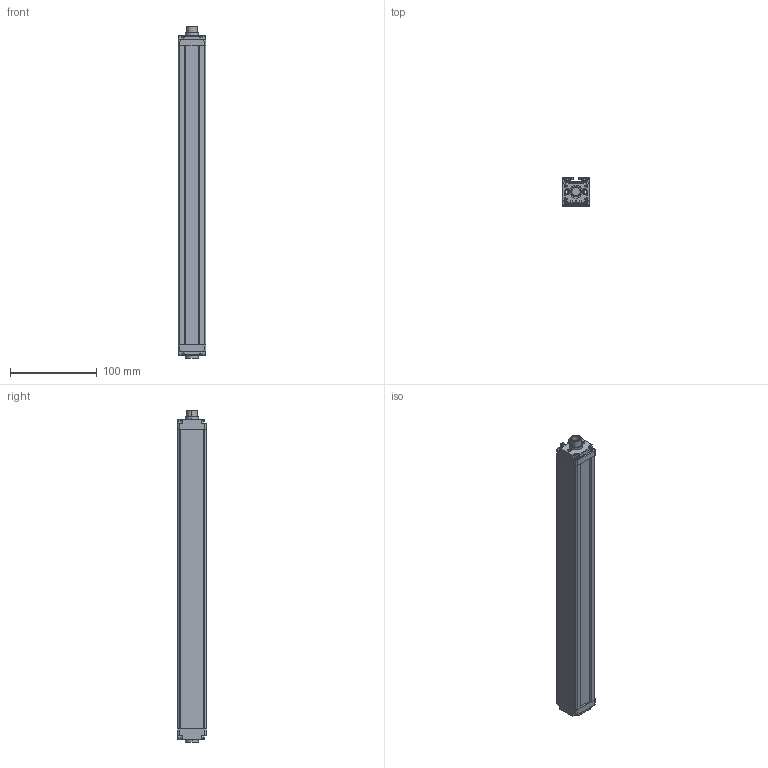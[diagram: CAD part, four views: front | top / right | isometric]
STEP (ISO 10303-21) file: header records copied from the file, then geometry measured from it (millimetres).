
FILE_DESCRIPTION(/* description */ (''),/* implementation_level */ '2;1');
FILE_NAME(/* name */ 'TYG10-32.stp',/* time_stamp */ '2023-08-25T11:18:01+08:00',/* author */ (''),/* organization */ (''),/* preprocessor_version */ 'ST-DEVELOPER v16',/* originating_system */ 'SIEMENS PLM Software NX 11.0',/* authorisation */ '');
FILE_SCHEMA (('AUTOMOTIVE_DESIGN { 1 0 10303 214 3 1 1 1 }'));
Length unit declared in the file: millimetre
Products named in the file (5): YAKELI; B-0823; K-0823; 20230331; TYG10-_stp
Assembly tree (4 placements, depth 2):
  TYG10-_stp
    20230331
    K-0823
    B-0823
    YAKELI
Bounding box: 31.87 x 33.07 x 383 mm (x, y, z)
Volume: 125551 mm3; surface area: 132892 mm2
Topology: 4 solids, 4 shells, 629 faces, 1887 edges, 1256 vertices
Faces by surface type: plane 346, cylinder 203, cone 36, sphere 16, torus 16, extrusion 8, bspline 4
Entity records: 21873 total; most frequent: CARTESIAN_POINT 4475, ORIENTED_EDGE 3758, DIRECTION 3551, EDGE_CURVE 1879, VERTEX_POINT 1256, AXIS2_PLACEMENT_3D 1188, VECTOR 1175, LINE 1167
